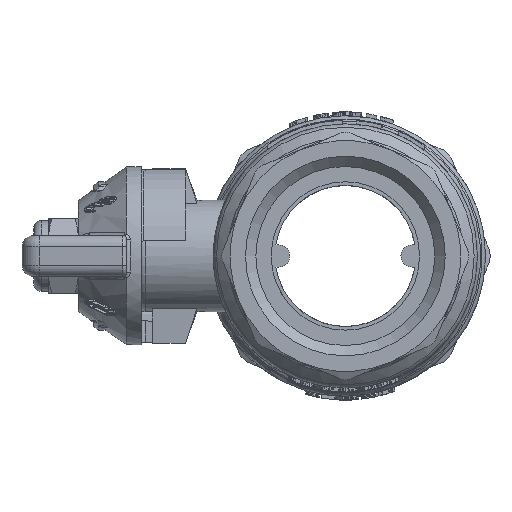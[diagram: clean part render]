
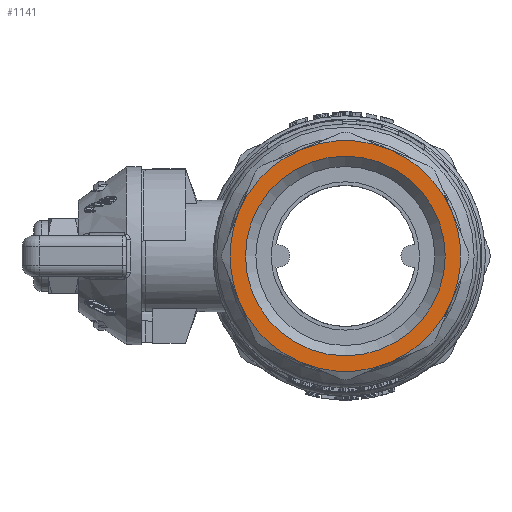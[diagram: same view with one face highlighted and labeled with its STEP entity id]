
A CAD part, left-side view. The second image highlights one B-rep face of the part: STEP entity #1141.
In plain terms, the highlighted planar face has unit normal (-1, 0, 0).
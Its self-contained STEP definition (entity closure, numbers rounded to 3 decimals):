
#1141=ADVANCED_FACE('',(#10615,#10617),#10619,.T.);
#10615=FACE_BOUND('',#10616,.T.);
#10616=EDGE_LOOP('',(#23772,#23773,#23774,#23775,#23776,#23777,#23778,#23779));
#10617=FACE_BOUND('',#10618,.T.);
#10618=EDGE_LOOP('',(#23780));
#10619=PLANE('',#10620);
#10620=AXIS2_PLACEMENT_3D('',#10621,#10622,#10623);
#10621=CARTESIAN_POINT('',(-28.9,0.,0.));
#10622=DIRECTION('',(-1.,0.,0.));
#10623=DIRECTION('',(0.,0.,1.));
#23772=ORIENTED_EDGE('',*,*,#31592,.T.);
#23773=ORIENTED_EDGE('',*,*,#31800,.T.);
#23774=ORIENTED_EDGE('',*,*,#31625,.T.);
#23775=ORIENTED_EDGE('',*,*,#31801,.T.);
#23776=ORIENTED_EDGE('',*,*,#31614,.T.);
#23777=ORIENTED_EDGE('',*,*,#31802,.T.);
#23778=ORIENTED_EDGE('',*,*,#31603,.T.);
#23779=ORIENTED_EDGE('',*,*,#31803,.T.);
#23780=ORIENTED_EDGE('',*,*,#31804,.T.);
#31592=EDGE_CURVE('',#39861,#39859,#39862,.F.);
#31603=EDGE_CURVE('',#39878,#39876,#39879,.F.);
#31614=EDGE_CURVE('',#39895,#39893,#39896,.F.);
#31625=EDGE_CURVE('',#39912,#39910,#39913,.F.);
#31800=EDGE_CURVE('',#39859,#39912,#40161,.F.);
#31801=EDGE_CURVE('',#39910,#39895,#40162,.F.);
#31802=EDGE_CURVE('',#39893,#39878,#40163,.F.);
#31803=EDGE_CURVE('',#39876,#39861,#40164,.F.);
#31804=EDGE_CURVE('',#40165,#40165,#40166,.F.);
#39859=VERTEX_POINT('',#64522);
#39861=VERTEX_POINT('',#64537);
#39862=CIRCLE('',#64538,15.55);
#39876=VERTEX_POINT('',#64738);
#39878=VERTEX_POINT('',#64753);
#39879=CIRCLE('',#64754,15.55);
#39893=VERTEX_POINT('',#64954);
#39895=VERTEX_POINT('',#64969);
#39896=CIRCLE('',#64970,15.55);
#39910=VERTEX_POINT('',#65170);
#39912=VERTEX_POINT('',#65185);
#39913=CIRCLE('',#65186,15.55);
#40161=CIRCLE('',#66194,15.55);
#40162=CIRCLE('',#66198,15.55);
#40163=CIRCLE('',#66202,15.55);
#40164=CIRCLE('',#66206,15.55);
#40165=VERTEX_POINT('',#66210);
#40166=CIRCLE('',#66211,13.459);
#64522=CARTESIAN_POINT('',(-28.9,5.951,14.366));
#64537=CARTESIAN_POINT('',(-28.9,-5.951,14.366));
#64538=AXIS2_PLACEMENT_3D('',#64539,#64540,#64541);
#64539=CARTESIAN_POINT('',(-28.9,0.,0.));
#64540=DIRECTION('',(1.,0.,0.));
#64541=DIRECTION('',(0.,0.383,0.924));
#64738=CARTESIAN_POINT('',(-28.9,-14.366,5.951));
#64753=CARTESIAN_POINT('',(-28.9,-14.366,-5.951));
#64754=AXIS2_PLACEMENT_3D('',#64755,#64756,#64757);
#64755=CARTESIAN_POINT('',(-28.9,0.,0.));
#64756=DIRECTION('',(1.,0.,0.));
#64757=DIRECTION('',(0.,-0.924,0.383));
#64954=CARTESIAN_POINT('',(-28.9,-5.951,-14.366));
#64969=CARTESIAN_POINT('',(-28.9,5.951,-14.366));
#64970=AXIS2_PLACEMENT_3D('',#64971,#64972,#64973);
#64971=CARTESIAN_POINT('',(-28.9,0.,0.));
#64972=DIRECTION('',(1.,0.,0.));
#64973=DIRECTION('',(0.,-0.383,-0.924));
#65170=CARTESIAN_POINT('',(-28.9,14.366,-5.951));
#65185=CARTESIAN_POINT('',(-28.9,14.366,5.951));
#65186=AXIS2_PLACEMENT_3D('',#65187,#65188,#65189);
#65187=CARTESIAN_POINT('',(-28.9,0.,0.));
#65188=DIRECTION('',(1.,0.,0.));
#65189=DIRECTION('',(0.,0.924,-0.383));
#66194=AXIS2_PLACEMENT_3D('',#66195,#66196,#66197);
#66195=CARTESIAN_POINT('',(-28.9,0.,0.));
#66196=DIRECTION('',(1.,0.,0.));
#66197=DIRECTION('',(0.,0.924,0.383));
#66198=AXIS2_PLACEMENT_3D('',#66199,#66200,#66201);
#66199=CARTESIAN_POINT('',(-28.9,0.,0.));
#66200=DIRECTION('',(1.,0.,0.));
#66201=DIRECTION('',(0.,0.383,-0.924));
#66202=AXIS2_PLACEMENT_3D('',#66203,#66204,#66205);
#66203=CARTESIAN_POINT('',(-28.9,0.,0.));
#66204=DIRECTION('',(1.,0.,0.));
#66205=DIRECTION('',(0.,-0.924,-0.383));
#66206=AXIS2_PLACEMENT_3D('',#66207,#66208,#66209);
#66207=CARTESIAN_POINT('',(-28.9,0.,0.));
#66208=DIRECTION('',(1.,0.,0.));
#66209=DIRECTION('',(0.,-0.383,0.924));
#66210=CARTESIAN_POINT('',(-28.9,0.,13.459));
#66211=AXIS2_PLACEMENT_3D('',#66212,#66213,#66214);
#66212=CARTESIAN_POINT('',(-28.9,0.,0.));
#66213=DIRECTION('',(-1.,0.,0.));
#66214=DIRECTION('',(0.,0.,1.));
